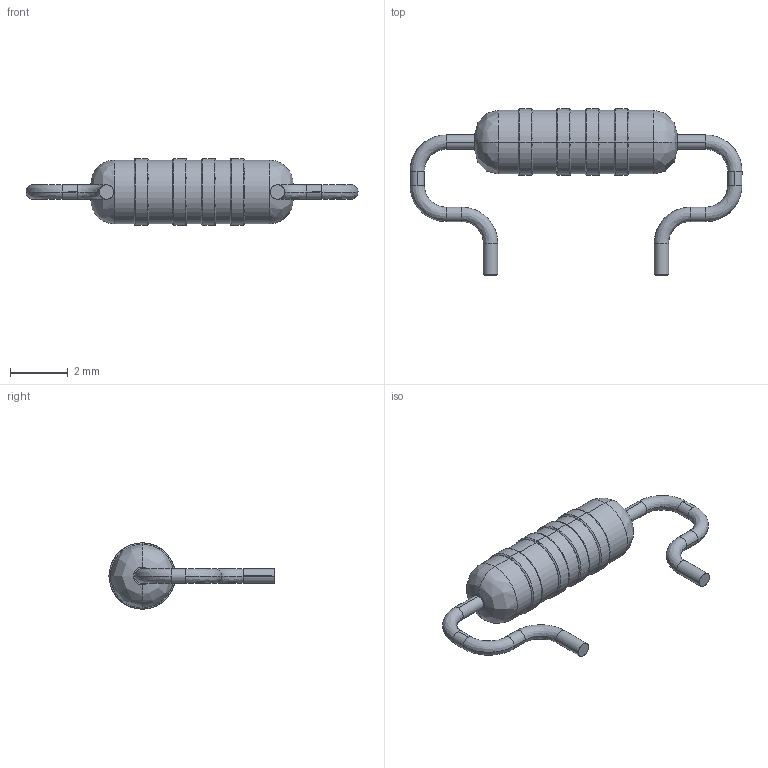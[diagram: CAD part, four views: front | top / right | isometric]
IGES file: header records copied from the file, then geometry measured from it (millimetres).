
Start section: SolidWorks IGES file using analytic representation for surfaces
Global section: file name: C:\Users\AndreBernot\Downloads\K-RACER-L_3D_SW\K-RACER-L_3D_SW\Résistor 2,2K pas de 5.92.IGS; native system: SolidWorks 2015; preprocessor: SolidWorks 2015; author: AndreBernot; date: 170922.151406; units: millimetre
Bounding box: 11.5 x 5.75 x 2.3 mm (x, y, z)
Surface area: 77.6 mm2 (no closed solid volume)
Topology: 0 solids, 0 shells, 70 faces, 384 edges, 384 vertices
Faces by surface type: bspline 36, revolution 34
